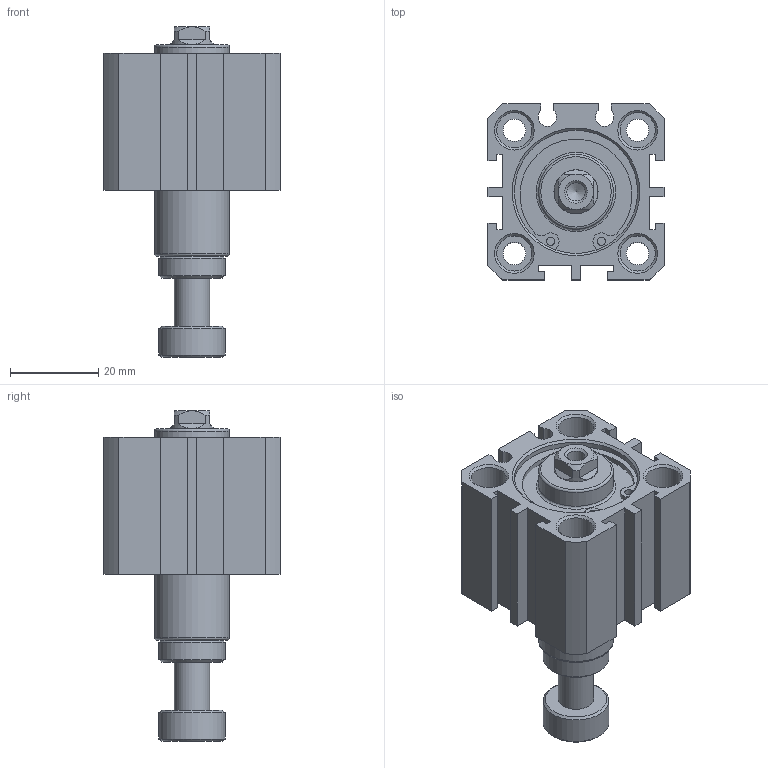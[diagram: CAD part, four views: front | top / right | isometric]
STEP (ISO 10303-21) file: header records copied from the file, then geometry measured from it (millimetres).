
FILE_DESCRIPTION((''),'2;1');
FILE_NAME('I:\3D電子目錄\氣缸\JDAR\JDAR\JDAR25\JDAR25x10.stp','2007-03-14T09:43:05',('662F206'),(''),'Autodesk Inventor 11','Autodesk Inventor 11','');
FILE_SCHEMA(('AUTOMOTIVE_DESIGN { 1 0 10303 214 1 1 1 1 }'));
Length unit declared in the file: millimetre
Products named in the file (3): JDAR25; R 形環 28
Assembly tree (3 placements, depth 2):
  JDAR25
    JDAR25
    R 形環 28  x2
Bounding box: 40 x 40 x 75.1 mm (x, y, z)
Volume: 44543 mm3; surface area: 16828.4 mm2
Topology: 3 solids, 3 shells, 165 faces, 384 edges, 249 vertices
Faces by surface type: plane 86, cylinder 48, cone 21, bspline 8, torus 2
Full cylindrical faces by diameter (mm): 1.5 x2, 1.9 x4, 5.1 x4, 8 x9, 10 x1, 15 x2, 17 x2, 28 x4, 29.4 x2
Entity records: 4249 total; most frequent: CARTESIAN_POINT 853, DIRECTION 706, ORIENTED_EDGE 588, EDGE_CURVE 294, AXIS2_PLACEMENT_3D 269, EDGE_LOOP 242, VERTEX_POINT 222, VECTOR 168
